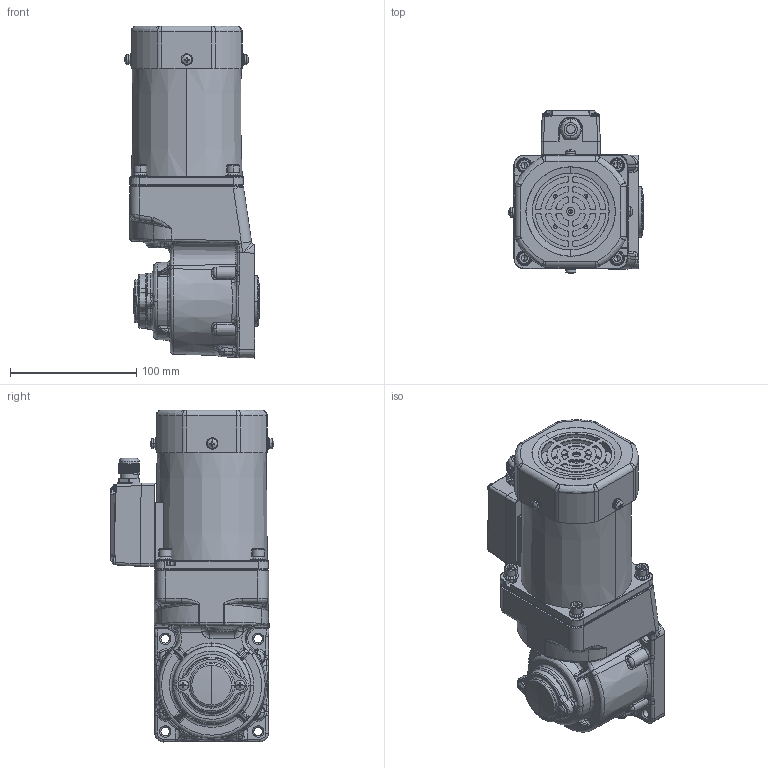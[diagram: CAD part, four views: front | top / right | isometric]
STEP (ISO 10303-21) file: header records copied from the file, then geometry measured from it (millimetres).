
FILE_DESCRIPTION (( 'STEP AP203' ), '1' );
FILE_NAME ('5RK60GU-CFT(5GU3RC-180RC)ÐÂ.STEP', '2023-08-17T07:25:29', ( 'Windows User' ), ( 'P R C' ), 'SwSTEP 2.0', 'SolidWorks 2019', '' );
FILE_SCHEMA (( 'CONFIG_CONTROL_DESIGN' ));
Length unit declared in the file: millimetre
Products named in the file (9): 90__________-0^5RK60GU-CFT(5GU3RC-180RC)陔(2)_5RK60GU-CFT(5GU3RC-180RC)陔; cross recessed pan head screws gb_GB_CROSS_SCREWS_TYPE1 M4X6-6  H type-N^5RK60GU-CFT(5GU3RC-180RC)ÐÂ(2)_5RK60GU-CFT(5GU3RC-180RC)ÐÂ; ZD-5GU50RC-505-003______1^5RK60GU-CFT(5GU3RC-180RC)陔(2)_5RK60GU-CFT(5GU3RC-180RC)陔; 90__________^5RK60GU-CFT(5GU3RC-180RC)陔(2)_5RK60GU-CFT(5GU3RC-180RC)陔; 90RT____________^5RK60GU-CFT(5GU3RC-180RC)陔(2)_5RK60GU-CFT(5GU3RC-180RC)陔; 5RK60GU-CFT(5GU3RC-180RC)陔; 5RK60GU-CFT(5GU3RT-180RT)^5RK60GU-CFT(5GU3RC-180RC)ÐÂ(2)_5RK60GU-CFT(5GU3RC-180RC)ÐÂ; 5RK60GU-CFT(5GU3RC-180RC)陔(2)^5RK60GU-CFT(5GU3RC-180RC)陔; hexagon socket head cap screws gb_GB_FASTENER_SCREWS_HSHCS M5X12-N^5RK60GU-CFT(5GU3RC-180RC)ÐÂ(2)_5RK60GU-CFT(5GU3RC-180RC)ÐÂ
Assembly tree (12 placements, depth 3):
  5RK60GU-CFT(5GU3RC-180RC)陔
    5RK60GU-CFT(5GU3RC-180RC)陔(2)^5RK60GU-CFT(5GU3RC-180RC)陔
      90__________^5RK60GU-CFT(5GU3RC-180RC)陔(2)_5RK60GU-CFT(5GU3RC-180RC)陔
      90RT____________^5RK60GU-CFT(5GU3RC-180RC)陔(2)_5RK60GU-CFT(5GU3RC-180RC)陔
      90__________-0^5RK60GU-CFT(5GU3RC-180RC)陔(2)_5RK60GU-CFT(5GU3RC-180RC)陔
      hexagon socket head cap screws gb_GB_FASTENER_SCREWS_HSHCS M5X12-N^5RK60GU-CFT(5GU3RC-180RC)ÐÂ(2)_5RK60GU-CFT(5GU3RC-180RC)ÐÂ  x4
      ZD-5GU50RC-505-003______1^5RK60GU-CFT(5GU3RC-180RC)陔(2)_5RK60GU-CFT(5GU3RC-180RC)陔
      cross recessed pan head screws gb_GB_CROSS_SCREWS_TYPE1 M4X6-6  H type-N^5RK60GU-CFT(5GU3RC-180RC)ÐÂ(2)_5RK60GU-CFT(5GU3RC-180RC)ÐÂ  x2
      5RK60GU-CFT(5GU3RT-180RT)^5RK60GU-CFT(5GU3RC-180RC)ÐÂ(2)_5RK60GU-CFT(5GU3RC-180RC)ÐÂ
Bounding box: 106.56 x 129.69 x 263.04 mm (x, y, z)
Volume: 1577038.9 mm3; surface area: 219025.9 mm2
Topology: 45 solids, 46 shells, 2936 faces, 7344 edges, 4422 vertices
Faces by surface type: cylinder 813, plane 773, cone 686, bspline 573, torus 85, sphere 6
Entity records: 118391 total; most frequent: CARTESIAN_POINT 54492, ORIENTED_EDGE 13922, DIRECTION 12287, EDGE_CURVE 6961, AXIS2_PLACEMENT_3D 4890, VERTEX_POINT 4279, EDGE_LOOP 2994, ADVANCED_FACE 2836
